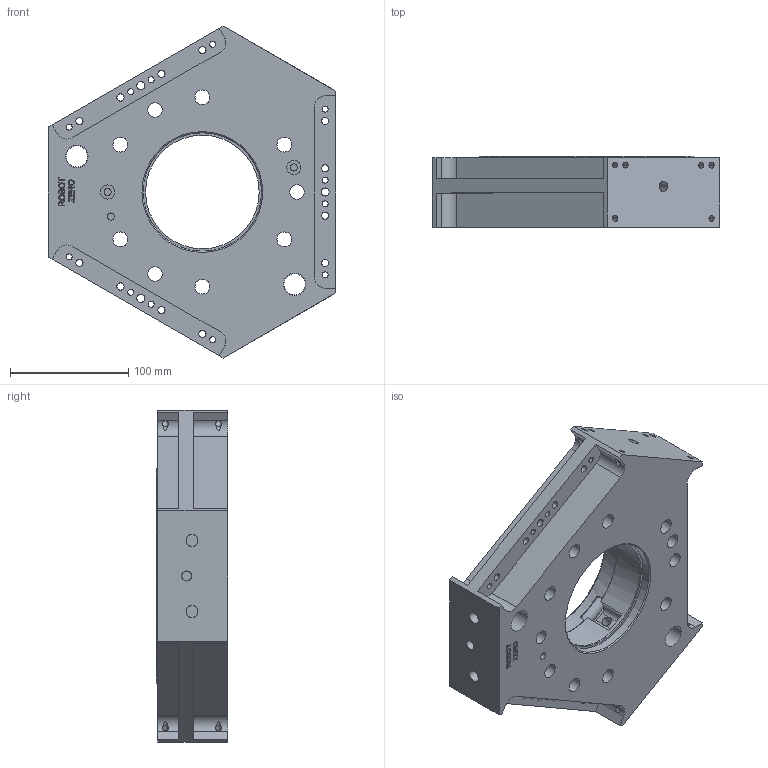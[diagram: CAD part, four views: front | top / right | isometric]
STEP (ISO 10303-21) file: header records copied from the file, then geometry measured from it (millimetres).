
FILE_DESCRIPTION (( 'STEP AP214' ), '1' );
FILE_NAME ('1504-D63A REV01.STEP', '2019-02-27T12:44:28', ( 'Any Employee' ), ( 'Applied Robotics Inc.' ), 'SwSTEP 2.0', 'SolidWorks 2019', '' );
FILE_SCHEMA (( 'AUTOMOTIVE_DESIGN' ));
Length unit declared in the file: millimetre
Products named in the file (7): 49621_Parallel Pin ISO 8734 - 12 x 35 - A - St; 1504-D63A REV01; 1504-D64N_0908-C58N; 49538; 0201-P86N; 49043; 1500-D15N
Assembly tree (12 placements, depth 2):
  1504-D63A REV01
    1500-D15N
    1504-D64N_0908-C58N
    0201-P86N  x2
    49043  x3
    49538  x2
    49621_Parallel Pin ISO 8734 - 12 x 35 - A - St  x3
Bounding box: 242.92 x 60 x 280.5 mm (x, y, z)
Volume: 1863283.2 mm3; surface area: 278626 mm2
Topology: 12 solids, 12 shells, 756 faces, 1940 edges, 1276 vertices
Faces by surface type: plane 367, bspline 174, cylinder 160, cone 37, torus 12, sphere 6
Full cylindrical faces by diameter (mm): 3 x2, 5 x20, 5.062 x4, 6 x4, 6.062 x12, 6.8 x6, 8 x3, 8.5 x6, 10.068 x2, 11.981 x2, 11.999 x2, 12 x5, 12.059 x2, 12.5 x18, 13 x3, 13.5 x3, 18.011 x2, 19 x2, 20.5 x9, 26.02 x2, 26.041 x2, 96 x1, 100.03 x1, 109 x1, 109.25 x1, 183 x1, 183.5 x1
Entity records: 31581 total; most frequent: CARTESIAN_POINT 15042, ORIENTED_EDGE 3366, DIRECTION 2724, EDGE_CURVE 1683, VERTEX_POINT 1189, EDGE_LOOP 1052, VECTOR 954, LINE 954
